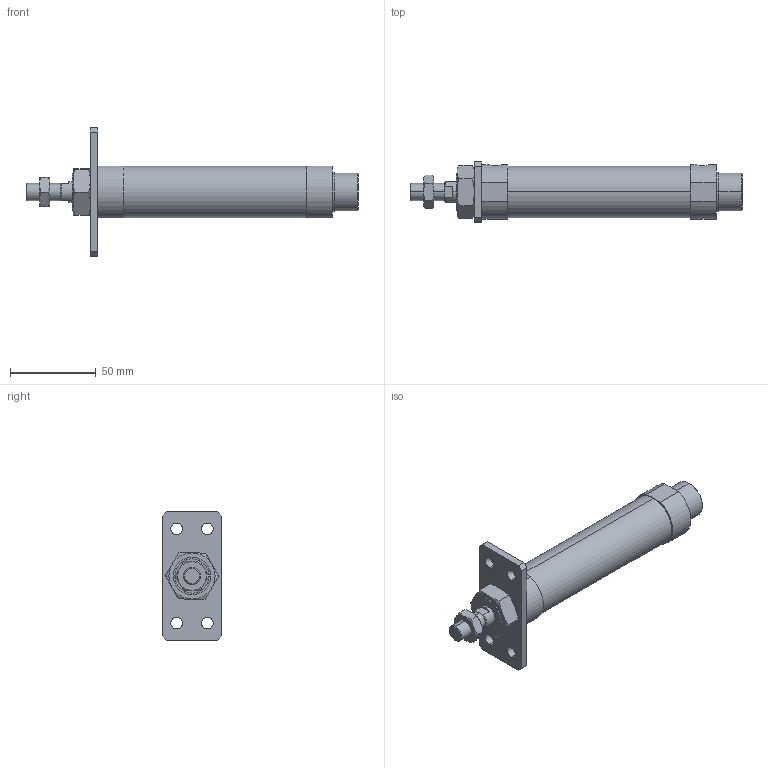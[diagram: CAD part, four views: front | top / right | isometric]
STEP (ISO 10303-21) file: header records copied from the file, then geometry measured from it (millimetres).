
FILE_DESCRIPTION (( 'STEP AP203' ), '1' );
FILE_NAME ('J#2-25-75-A.STEP', '2016-03-08T07:12:41', ( '' ), ( '' ), 'SwSTEP 2.0', 'SolidWorks 2014', '' );
FILE_SCHEMA (( 'CONFIG_CONTROL_DESIGN' ));
Length unit declared in the file: millimetre
Products named in the file (5): J#2-25-75; J#2-25-A; J#2-25-75-A
Assembly tree (4 placements, depth 2):
  J#2-25-75-A
    J#2-25-75
    (unnamed)
    (unnamed)
    J#2-25-A
Bounding box: 194 x 35 x 75 mm (x, y, z)
Volume: 123873.8 mm3; surface area: 27787.8 mm2
Topology: 4 solids, 4 shells, 117 faces, 268 edges, 162 vertices
Faces by surface type: plane 47, cylinder 36, torus 24, cone 10
Entity records: 4123 total; most frequent: CARTESIAN_POINT 990, DIRECTION 558, ORIENTED_EDGE 528, EDGE_CURVE 264, AXIS2_PLACEMENT_3D 226, VERTEX_POINT 162, EDGE_LOOP 138, ADVANCED_FACE 117
